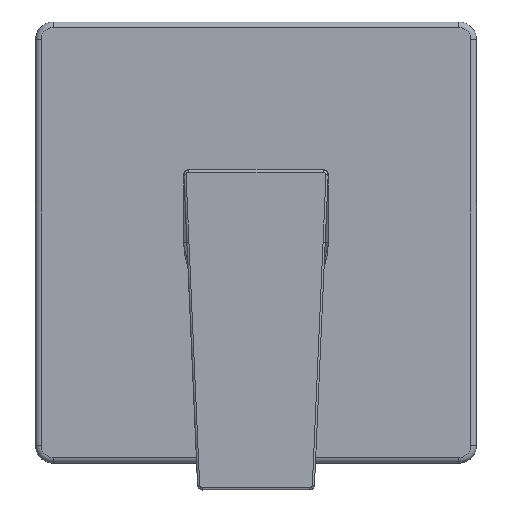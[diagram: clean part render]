
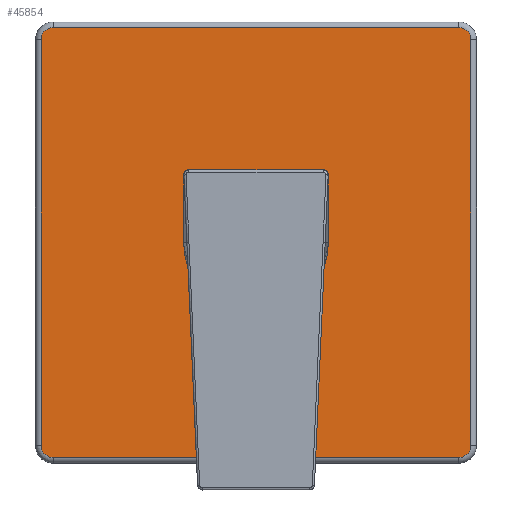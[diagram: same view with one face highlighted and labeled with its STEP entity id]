
A CAD part, top view. The second image highlights one B-rep face of the part: STEP entity #45854.
In plain terms, the highlighted planar face has unit normal (0, 0, 1).
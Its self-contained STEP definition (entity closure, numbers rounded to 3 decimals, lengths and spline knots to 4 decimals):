
#14 = EDGE_CURVE ( 'NONE', #11739, #38095, #24174, .T. ) ;
#84 = DIRECTION ( 'NONE',  ( 0., 0., 1. ) ) ;
#416 = AXIS2_PLACEMENT_3D ( 'NONE', #41112, #51137, #45124 ) ;
#777 = CARTESIAN_POINT ( 'NONE',  ( -2.875, 3.045, 0.48 ) ) ;
#1773 = AXIS2_PLACEMENT_3D ( 'NONE', #60370, #33662, #23653 ) ;
#1909 = CARTESIAN_POINT ( 'NONE',  ( 0.125, -1.0179, 0.48 ) ) ;
#2554 = CARTESIAN_POINT ( 'NONE',  ( -0.125, -1.27, 0.48 ) ) ;
#2689 = CARTESIAN_POINT ( 'NONE',  ( -2.875, -3.045, 0.48 ) ) ;
#2869 = CIRCLE ( 'NONE', #19915, 0.17 ) ;
#2893 = CARTESIAN_POINT ( 'NONE',  ( -3.045, -2.875, 0.48 ) ) ;
#3455 = EDGE_CURVE ( 'NONE', #47727, #20262, #20675, .T. ) ;
#3546 = AXIS2_PLACEMENT_3D ( 'NONE', #36794, #22093, #62484 ) ;
#4585 = VECTOR ( 'NONE', #57961, 39.3701 ) ;
#5266 = DIRECTION ( 'NONE',  ( 0., 0., 1. ) ) ;
#5339 = CARTESIAN_POINT ( 'NONE',  ( 1.0255, 0., 0.48 ) ) ;
#5524 = CARTESIAN_POINT ( 'NONE',  ( -0.125, -1.27, 0.48 ) ) ;
#6260 = EDGE_LOOP ( 'NONE', ( #24715, #61814, #63822, #49139, #38109, #28729 ) ) ;
#6741 = VERTEX_POINT ( 'NONE', #40273 ) ;
#7033 = EDGE_CURVE ( 'NONE', #56411, #44372, #36494, .T. ) ;
#7865 = VECTOR ( 'NONE', #23264, 39.3701 ) ;
#8093 = DIRECTION ( 'NONE',  ( 1., 0., 0. ) ) ;
#8855 = FACE_OUTER_BOUND ( 'NONE', #18554, .T. ) ;
#10191 = DIRECTION ( 'NONE',  ( 0., 1., 0. ) ) ;
#10266 = CARTESIAN_POINT ( 'NONE',  ( 0., -1.27, 0.48 ) ) ;
#10825 = EDGE_CURVE ( 'NONE', #21124, #56411, #16439, .T. ) ;
#11148 = DIRECTION ( 'NONE',  ( 1., 0., 0. ) ) ;
#11739 = VERTEX_POINT ( 'NONE', #5339 ) ;
#11977 = VECTOR ( 'NONE', #29938, 39.3701 ) ;
#13535 = DIRECTION ( 'NONE',  ( 1., 0., 0. ) ) ;
#14560 = VECTOR ( 'NONE', #10191, 39.3701 ) ;
#16261 = VERTEX_POINT ( 'NONE', #17242 ) ;
#16439 = CIRCLE ( 'NONE', #53752, 0.125 ) ;
#16992 = DIRECTION ( 'NONE',  ( 1., 0., 0. ) ) ;
#17227 = LINE ( 'NONE', #2554, #4585 ) ;
#17242 = CARTESIAN_POINT ( 'NONE',  ( -3.045, -2.875, 0.48 ) ) ;
#17601 = VERTEX_POINT ( 'NONE', #35636 ) ;
#17638 = CARTESIAN_POINT ( 'NONE',  ( -0.125, -1.0179, 0.48 ) ) ;
#18211 = PLANE ( 'NONE',  #46157 ) ;
#18539 = DIRECTION ( 'NONE',  ( 0., 0., 1. ) ) ;
#18554 = EDGE_LOOP ( 'NONE', ( #31135, #51385, #43850, #25050, #57924, #23090, #28696, #25033 ) ) ;
#18977 = CIRCLE ( 'NONE', #58432, 1.0255 ) ;
#19915 = AXIS2_PLACEMENT_3D ( 'NONE', #32686, #84, #16992 ) ;
#20262 = VERTEX_POINT ( 'NONE', #22520 ) ;
#20675 = CIRCLE ( 'NONE', #54784, 0.17 ) ;
#21124 = VERTEX_POINT ( 'NONE', #5524 ) ;
#22093 = DIRECTION ( 'NONE',  ( 0., 0., 1. ) ) ;
#22520 = CARTESIAN_POINT ( 'NONE',  ( 3.045, -2.875, 0.48 ) ) ;
#22796 = CARTESIAN_POINT ( 'NONE',  ( 2.875, -3.045, 0.48 ) ) ;
#22885 = VERTEX_POINT ( 'NONE', #64788 ) ;
#23090 = ORIENTED_EDGE ( 'NONE', *, *, #52937, .T. ) ;
#23117 = AXIS2_PLACEMENT_3D ( 'NONE', #37799, #58823, #8093 ) ;
#23202 = CARTESIAN_POINT ( 'NONE',  ( -2.875, -3.045, 0.48 ) ) ;
#23264 = DIRECTION ( 'NONE',  ( 0., -1., 0. ) ) ;
#23653 = DIRECTION ( 'NONE',  ( 1., 0., 0. ) ) ;
#24163 = CIRCLE ( 'NONE', #23117, 0.17 ) ;
#24174 = CIRCLE ( 'NONE', #1773, 1.0255 ) ;
#24209 = CARTESIAN_POINT ( 'NONE',  ( -2.875, -2.875, 0.48 ) ) ;
#24715 = ORIENTED_EDGE ( 'NONE', *, *, #27148, .F. ) ;
#25033 = ORIENTED_EDGE ( 'NONE', *, *, #65542, .T. ) ;
#25050 = ORIENTED_EDGE ( 'NONE', *, *, #41949, .T. ) ;
#27148 = EDGE_CURVE ( 'NONE', #31181, #21124, #17227, .T. ) ;
#27570 = EDGE_CURVE ( 'NONE', #17601, #22885, #40813, .T. ) ;
#28696 = ORIENTED_EDGE ( 'NONE', *, *, #27570, .T. ) ;
#28729 = ORIENTED_EDGE ( 'NONE', *, *, #10825, .F. ) ;
#29777 = CARTESIAN_POINT ( 'NONE',  ( -1.0255, 0., 0.48 ) ) ;
#29938 = DIRECTION ( 'NONE',  ( 1., 0., 0. ) ) ;
#30174 = DIRECTION ( 'NONE',  ( 0., 1., 0. ) ) ;
#30300 = DIRECTION ( 'NONE',  ( 1., 0., 0. ) ) ;
#31135 = ORIENTED_EDGE ( 'NONE', *, *, #59710, .T. ) ;
#31181 = VERTEX_POINT ( 'NONE', #17638 ) ;
#32686 = CARTESIAN_POINT ( 'NONE',  ( -2.875, -2.875, 0.48 ) ) ;
#33662 = DIRECTION ( 'NONE',  ( 0., 0., 1. ) ) ;
#35361 = DIRECTION ( 'NONE',  ( 0., 0., 1. ) ) ;
#35507 = CARTESIAN_POINT ( 'NONE',  ( 0.125, -0.9535, 0.48 ) ) ;
#35636 = CARTESIAN_POINT ( 'NONE',  ( 3.045, 2.875, 0.48 ) ) ;
#35930 = CARTESIAN_POINT ( 'NONE',  ( 0.125, -1.27, 0.48 ) ) ;
#36202 = VECTOR ( 'NONE', #45837, 39.3701 ) ;
#36479 = LINE ( 'NONE', #777, #36202 ) ;
#36494 = LINE ( 'NONE', #35507, #37600 ) ;
#36794 = CARTESIAN_POINT ( 'NONE',  ( 2.875, 2.875, 0.48 ) ) ;
#37600 = VECTOR ( 'NONE', #30174, 39.3701 ) ;
#37799 = CARTESIAN_POINT ( 'NONE',  ( -2.875, 2.875, 0.48 ) ) ;
#38095 = VERTEX_POINT ( 'NONE', #29777 ) ;
#38109 = ORIENTED_EDGE ( 'NONE', *, *, #7033, .F. ) ;
#40242 = LINE ( 'NONE', #65307, #14560 ) ;
#40273 = CARTESIAN_POINT ( 'NONE',  ( -2.875, 3.045, 0.48 ) ) ;
#40813 = CIRCLE ( 'NONE', #3546, 0.17 ) ;
#41112 = CARTESIAN_POINT ( 'NONE',  ( 0., 0., 0.48 ) ) ;
#41344 = CARTESIAN_POINT ( 'NONE',  ( 2.875, -2.875, 0.48 ) ) ;
#41949 = EDGE_CURVE ( 'NONE', #65215, #47727, #55302, .T. ) ;
#42735 = VERTEX_POINT ( 'NONE', #50635 ) ;
#43850 = ORIENTED_EDGE ( 'NONE', *, *, #57737, .T. ) ;
#44372 = VERTEX_POINT ( 'NONE', #1909 ) ;
#44422 = EDGE_CURVE ( 'NONE', #42735, #16261, #58642, .T. ) ;
#45124 = DIRECTION ( 'NONE',  ( 1., 0., 0. ) ) ;
#45837 = DIRECTION ( 'NONE',  ( -1., 0., 0. ) ) ;
#45854 = ADVANCED_FACE ( 'NONE', ( #64618, #8855 ), #18211, .T. ) ;
#45875 = DIRECTION ( 'NONE',  ( 0., 0., 1. ) ) ;
#46157 = AXIS2_PLACEMENT_3D ( 'NONE', #24209, #18539, #13535 ) ;
#47376 = EDGE_CURVE ( 'NONE', #38095, #31181, #57979, .T. ) ;
#47727 = VERTEX_POINT ( 'NONE', #22796 ) ;
#49139 = ORIENTED_EDGE ( 'NONE', *, *, #62449, .F. ) ;
#50635 = CARTESIAN_POINT ( 'NONE',  ( -3.045, 2.875, 0.48 ) ) ;
#51137 = DIRECTION ( 'NONE',  ( 0., 0., 1. ) ) ;
#51385 = ORIENTED_EDGE ( 'NONE', *, *, #44422, .T. ) ;
#52937 = EDGE_CURVE ( 'NONE', #20262, #17601, #40242, .T. ) ;
#53752 = AXIS2_PLACEMENT_3D ( 'NONE', #10266, #5266, #30300 ) ;
#54784 = AXIS2_PLACEMENT_3D ( 'NONE', #41344, #35361, #55716 ) ;
#55302 = LINE ( 'NONE', #2689, #11977 ) ;
#55716 = DIRECTION ( 'NONE',  ( 1., 0., 0. ) ) ;
#56411 = VERTEX_POINT ( 'NONE', #35930 ) ;
#56548 = CARTESIAN_POINT ( 'NONE',  ( 0., 0., 0.48 ) ) ;
#57737 = EDGE_CURVE ( 'NONE', #16261, #65215, #2869, .T. ) ;
#57924 = ORIENTED_EDGE ( 'NONE', *, *, #3455, .T. ) ;
#57961 = DIRECTION ( 'NONE',  ( 0., -1., 0. ) ) ;
#57979 = CIRCLE ( 'NONE', #416, 1.0255 ) ;
#58432 = AXIS2_PLACEMENT_3D ( 'NONE', #56548, #45875, #11148 ) ;
#58642 = LINE ( 'NONE', #2893, #7865 ) ;
#58823 = DIRECTION ( 'NONE',  ( 0., 0., 1. ) ) ;
#59710 = EDGE_CURVE ( 'NONE', #6741, #42735, #24163, .T. ) ;
#60370 = CARTESIAN_POINT ( 'NONE',  ( 0., 0., 0.48 ) ) ;
#61814 = ORIENTED_EDGE ( 'NONE', *, *, #47376, .F. ) ;
#62449 = EDGE_CURVE ( 'NONE', #44372, #11739, #18977, .T. ) ;
#62484 = DIRECTION ( 'NONE',  ( 1., 0., 0. ) ) ;
#63822 = ORIENTED_EDGE ( 'NONE', *, *, #14, .F. ) ;
#64618 = FACE_BOUND ( 'NONE', #6260, .T. ) ;
#64788 = CARTESIAN_POINT ( 'NONE',  ( 2.875, 3.045, 0.48 ) ) ;
#65215 = VERTEX_POINT ( 'NONE', #23202 ) ;
#65307 = CARTESIAN_POINT ( 'NONE',  ( 3.045, -2.875, 0.48 ) ) ;
#65542 = EDGE_CURVE ( 'NONE', #22885, #6741, #36479, .T. ) ;
